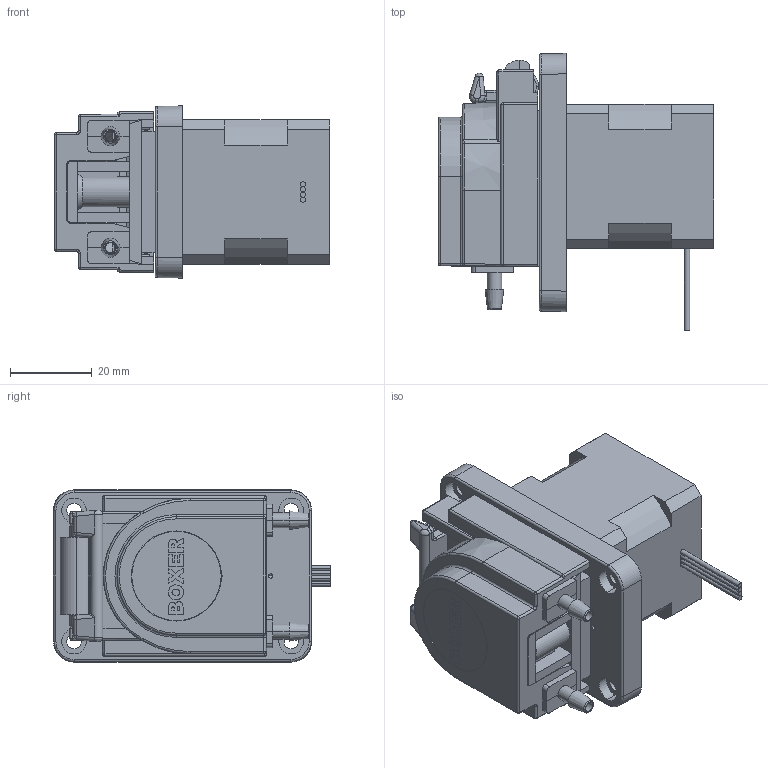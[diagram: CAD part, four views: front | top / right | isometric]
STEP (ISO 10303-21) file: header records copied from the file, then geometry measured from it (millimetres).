
FILE_DESCRIPTION (( 'STEP AP203' ), '1' );
FILE_NAME ('9600.STEP', '2015-12-26T18:36:06', ( 'USER' ), ( '' ), 'SwSTEP 2.0', 'SolidWorks 2014', '' );
FILE_SCHEMA (( 'CONFIG_CONTROL_DESIGN' ));
Length unit declared in the file: millimetre
Products named in the file (1): 9600
Bounding box: 67.2 x 67.6 x 42 mm (x, y, z)
Surface area: 23961.9 mm2 (no closed solid volume)
Topology: 0 solids, 16 shells, 434 faces, 1549 edges, 1102 vertices
Faces by surface type: plane 174, cylinder 157, torus 33, cone 29, bspline 27, sphere 14
Entity records: 18033 total; most frequent: CARTESIAN_POINT 5267, DIRECTION 2621, ORIENTED_EDGE 2405, EDGE_CURVE 1535, VERTEX_POINT 1098, AXIS2_PLACEMENT_3D 912, LINE 797, VECTOR 797
